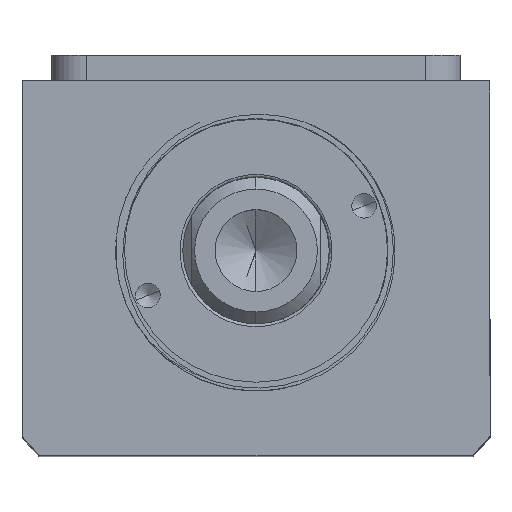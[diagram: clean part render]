
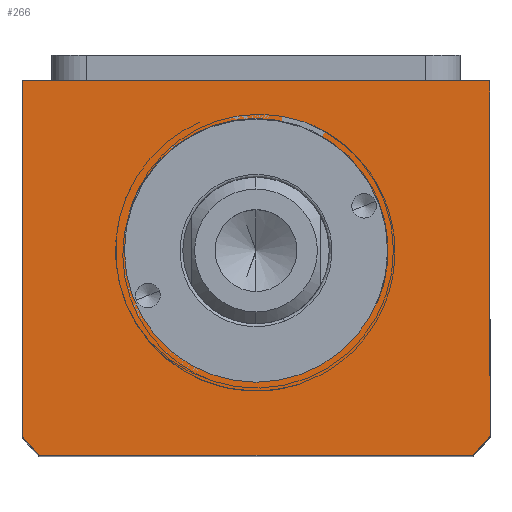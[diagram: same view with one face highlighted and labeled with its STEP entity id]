
A CAD part, top view. The second image highlights one B-rep face of the part: STEP entity #266.
In plain terms, the highlighted planar face has unit normal (0, 0, 1).
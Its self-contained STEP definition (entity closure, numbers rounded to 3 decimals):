
#49 = VERTEX_POINT ( 'NONE', #798 ) ;
#73 = VERTEX_POINT ( 'NONE', #5050 ) ;
#266 = ADVANCED_FACE ( 'NONE', ( #5646, #3454 ), #9084, .T. ) ;
#326 = DIRECTION ( 'NONE',  ( 0., 0., 1. ) ) ;
#686 = EDGE_CURVE ( 'NONE', #7031, #3170, #3857, .T. ) ;
#772 = AXIS2_PLACEMENT_3D ( 'NONE', #1674, #2371, #2332 ) ;
#798 = CARTESIAN_POINT ( 'NONE',  ( -40., -11.507, 155. ) ) ;
#825 = ORIENTED_EDGE ( 'NONE', *, *, #8198, .F. ) ;
#873 = VERTEX_POINT ( 'NONE', #5182 ) ;
#1065 = DIRECTION ( 'NONE',  ( 0., 0., 1. ) ) ;
#1130 = AXIS2_PLACEMENT_3D ( 'NONE', #7332, #1065, #10543 ) ;
#1311 = EDGE_CURVE ( 'NONE', #873, #3171, #2691, .T. ) ;
#1397 = CARTESIAN_POINT ( 'NONE',  ( -40., -11.507, 155. ) ) ;
#1495 = CIRCLE ( 'NONE', #2712, 22.5 ) ;
#1605 = ORIENTED_EDGE ( 'NONE', *, *, #10569, .T. ) ;
#1674 = CARTESIAN_POINT ( 'NONE',  ( 0., 0., 155. ) ) ;
#1983 = LINE ( 'NONE', #2613, #8221 ) ;
#2070 = CARTESIAN_POINT ( 'NONE',  ( -40., -75.507, 155. ) ) ;
#2124 = CARTESIAN_POINT ( 'NONE',  ( 0., -40.507, 155. ) ) ;
#2185 = DIRECTION ( 'NONE',  ( 0., -1., 0. ) ) ;
#2232 = AXIS2_PLACEMENT_3D ( 'NONE', #2124, #7823, #2963 ) ;
#2332 = DIRECTION ( 'NONE',  ( 1., 0., 0. ) ) ;
#2345 = CIRCLE ( 'NONE', #10407, 51. ) ;
#2371 = DIRECTION ( 'NONE',  ( 0., 0., 1. ) ) ;
#2613 = CARTESIAN_POINT ( 'NONE',  ( 40., -11.507, 155. ) ) ;
#2622 = ORIENTED_EDGE ( 'NONE', *, *, #686, .T. ) ;
#2691 = CIRCLE ( 'NONE', #2232, 22.5 ) ;
#2712 = AXIS2_PLACEMENT_3D ( 'NONE', #5270, #326, #6092 ) ;
#2753 = ORIENTED_EDGE ( 'NONE', *, *, #6317, .T. ) ;
#2785 = CARTESIAN_POINT ( 'NONE',  ( 0., -40.507, 155. ) ) ;
#2963 = DIRECTION ( 'NONE',  ( 1., 0., 0. ) ) ;
#2969 = CARTESIAN_POINT ( 'NONE',  ( -37.094, -75.507, 155. ) ) ;
#3170 = VERTEX_POINT ( 'NONE', #2969 ) ;
#3171 = VERTEX_POINT ( 'NONE', #7907 ) ;
#3398 = ORIENTED_EDGE ( 'NONE', *, *, #4749, .T. ) ;
#3454 = FACE_OUTER_BOUND ( 'NONE', #4456, .T. ) ;
#3615 = DIRECTION ( 'NONE',  ( 1., 0., 0. ) ) ;
#3857 = CIRCLE ( 'NONE', #1130, 51. ) ;
#4447 = ORIENTED_EDGE ( 'NONE', *, *, #1311, .F. ) ;
#4456 = EDGE_LOOP ( 'NONE', ( #1605, #2622, #4509, #2753, #3398, #7960 ) ) ;
#4509 = ORIENTED_EDGE ( 'NONE', *, *, #5028, .T. ) ;
#4617 = DIRECTION ( 'NONE',  ( -1., 0., 0. ) ) ;
#4749 = EDGE_CURVE ( 'NONE', #7095, #73, #1983, .T. ) ;
#5028 = EDGE_CURVE ( 'NONE', #3170, #7765, #9362, .T. ) ;
#5050 = CARTESIAN_POINT ( 'NONE',  ( 40., -11.507, 155. ) ) ;
#5182 = CARTESIAN_POINT ( 'NONE',  ( -22.5, -40.507, 155. ) ) ;
#5270 = CARTESIAN_POINT ( 'NONE',  ( 0., -40.507, 155. ) ) ;
#5646 = FACE_BOUND ( 'NONE', #6133, .T. ) ;
#5805 = VECTOR ( 'NONE', #2185, 1000. ) ;
#5896 = CARTESIAN_POINT ( 'NONE',  ( -40., -72.145, 155. ) ) ;
#6092 = DIRECTION ( 'NONE',  ( 1., 0., 0. ) ) ;
#6133 = EDGE_LOOP ( 'NONE', ( #825, #4447 ) ) ;
#6317 = EDGE_CURVE ( 'NONE', #7765, #7095, #2345, .T. ) ;
#6727 = DIRECTION ( 'NONE',  ( 0., 1., 0. ) ) ;
#7031 = VERTEX_POINT ( 'NONE', #5896 ) ;
#7095 = VERTEX_POINT ( 'NONE', #7481 ) ;
#7332 = CARTESIAN_POINT ( 'NONE',  ( 0., -40.507, 155. ) ) ;
#7481 = CARTESIAN_POINT ( 'NONE',  ( 40., -72.145, 155. ) ) ;
#7765 = VERTEX_POINT ( 'NONE', #8303 ) ;
#7823 = DIRECTION ( 'NONE',  ( 0., 0., 1. ) ) ;
#7907 = CARTESIAN_POINT ( 'NONE',  ( 22.5, -40.507, 155. ) ) ;
#7913 = LINE ( 'NONE', #1397, #5805 ) ;
#7960 = ORIENTED_EDGE ( 'NONE', *, *, #9333, .T. ) ;
#8097 = VECTOR ( 'NONE', #4617, 1000. ) ;
#8198 = EDGE_CURVE ( 'NONE', #3171, #873, #1495, .T. ) ;
#8221 = VECTOR ( 'NONE', #6727, 1000. ) ;
#8303 = CARTESIAN_POINT ( 'NONE',  ( 37.094, -75.507, 155. ) ) ;
#8453 = DIRECTION ( 'NONE',  ( 0., 0., 1. ) ) ;
#9084 = PLANE ( 'NONE',  #772 ) ;
#9100 = VECTOR ( 'NONE', #10207, 1000. ) ;
#9333 = EDGE_CURVE ( 'NONE', #73, #49, #10250, .T. ) ;
#9362 = LINE ( 'NONE', #2070, #9100 ) ;
#9448 = CARTESIAN_POINT ( 'NONE',  ( -40., -11.507, 155. ) ) ;
#10207 = DIRECTION ( 'NONE',  ( 1., 0., 0. ) ) ;
#10250 = LINE ( 'NONE', #9448, #8097 ) ;
#10407 = AXIS2_PLACEMENT_3D ( 'NONE', #2785, #8453, #3615 ) ;
#10543 = DIRECTION ( 'NONE',  ( 1., 0., 0. ) ) ;
#10569 = EDGE_CURVE ( 'NONE', #49, #7031, #7913, .T. ) ;
